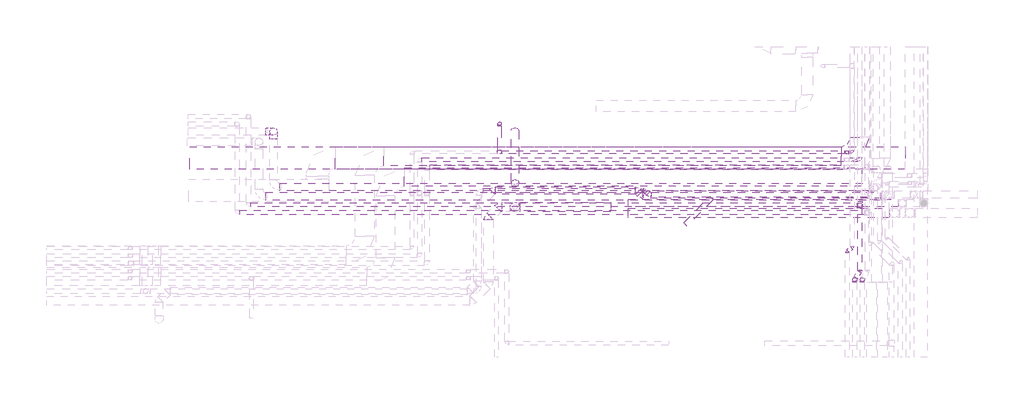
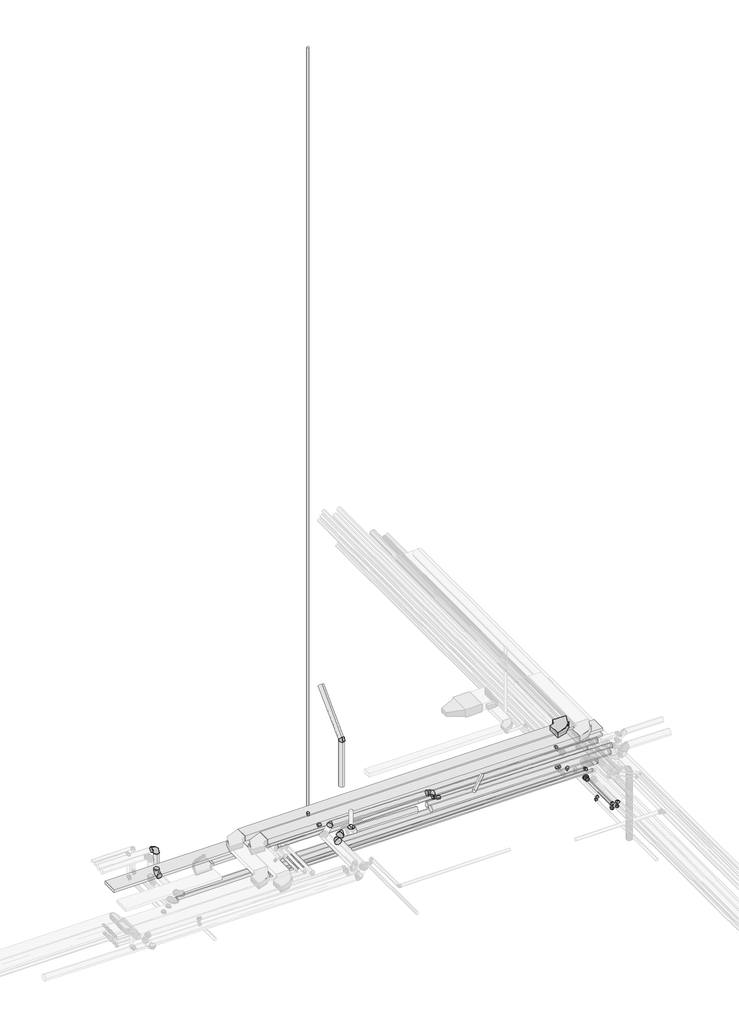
# One storey, part 6 of 12: 29 pipe segments, 24 pipe fittings, 5 duct segments, 3 duct fittings, 2 cable carrier segments.
"""IFC4 building model written with IfcOpenShell, lengths in millimetres."""

from ifc_helpers import new_model, si_unit, point, frame, frame_2d, origin, place, context, project, spatial, polyline, circle_curve, trimmed, segment, composite_curve, outline, extrude, transform, mapped, element, save
from components import m_codo_rectangular_radio_apt_1_w_8ec2a39b, m_codo_redondo_ext_1_d_d88d4426, m_codo_redondo_ext_1_d_1d3d167f, pipe_fitting_ae9a0cda, pipe_fitting_c8b089c1, pipe_fitting_fa3f9604, pipe_fitting_87aeffad, pipe_fitting_4a6b8cfe, pipe_fitting_2d09eb79, pipe_fitting_80f5df9b, pipe_fitting_a384b232, pipe_fitting_20247dfb, pipe_fitting_58729e57, pipe_fitting_8179267e, pipe_fitting_2f38fb91, t_soldadura_a_enchufe_4b0a6972

model = new_model("IFC4")

# Units and contexts
model_context = context("Model", 3, world=origin())
ifc_project = project(units=[si_unit("LENGTHUNIT", "METRE", prefix="MILLI")], contexts=[model_context])

# Site, building, storey
site = spatial("IfcSite", under=ifc_project)
building = spatial("IfcBuilding", under=site)
storey = spatial("IfcBuildingStorey", under=building, Name="Nivell -01 PS1_PK", Elevation=1850.0)

# Cable carrier segments
placement = place(None, origin())
element("IfcCableCarrierSegment", 1, ObjectType="EL", at=placement, inside=storey, context=model_context, shape_type="SweptSolid", body=[
    extrude(outline(polyline([(33067.3540629, -11878.0770603), (33067.3540629, -12478.0770603), (17944.9823979, -12478.0770603), (17944.9823979, -11878.0770603), (33067.3540629, -11878.0770603)])), frame((0.0, 0.0, 5150.0), z_axis=(0.0, 0.0, 1.0), x_axis=(1.0, 0.0, 0.0)), (0.0, 0.0, 1.0), 100.0),
])
element("IfcCableCarrierSegment", 2, ObjectType="EL", at=placement, inside=storey, context=model_context, shape_type="SweptSolid", body=[
    extrude(outline(polyline([(33067.3540629, -11878.0770603), (33067.3540629, -12478.0770603), (14074.9823979, -12478.0770603), (14074.9823979, -11878.0770603), (33067.3540629, -11878.0770603)])), frame((0.0, 0.0, 5400.0), z_axis=(0.0, 0.0, 1.0), x_axis=(1.0, 0.0, 0.0)), (0.0, 0.0, 1.0), 100.0),
])

# Duct fittings
m_codo_rectangular_radio_apt_1_w_shape = m_codo_rectangular_radio_apt_1_w_8ec2a39b(model_context)
element("IfcDuctFitting", 3, ObjectType="M_Codo rectangular - Radio : EXT_1 W", at=placement, inside=storey, context=model_context, shape_type="MappedRepresentation", body=[
    mapped(m_codo_rectangular_radio_apt_1_w_shape, transform((31865.0957651, -12128.0770603, 5750.0), x_axis=(1.0, 0.0, 0.0), y_axis=(0.0, 1.0, 0.0), z_axis=(0.0, 0.0, 1.0))),
])
m_codo_redondo_ext_1_d_shape = m_codo_redondo_ext_1_d_d88d4426(model_context)
element("IfcDuctFitting", 4, ObjectType="M_Codo redondo : EXT_1 D", at=placement, inside=storey, context=model_context, shape_type="MappedRepresentation", body=[
    mapped(m_codo_redondo_ext_1_d_shape, transform((26281.8801613, -13150.9140623, 5450.0), x_axis=(0.7071067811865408, -0.7071067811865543, 0.0), y_axis=(0.7071067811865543, 0.7071067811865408, 0.0), z_axis=(0.0, 0.0, 1.0))),
])
m_codo_redondo_ext_1_d_2_shape = m_codo_redondo_ext_1_d_1d3d167f(model_context)
element("IfcDuctFitting", 5, ObjectType="M_Codo redondo : EXT_1 D", at=placement, inside=storey, context=model_context, shape_type="MappedRepresentation", body=[
    mapped(m_codo_redondo_ext_1_d_2_shape, transform((26168.239286, -13037.2731871, 5450.0), x_axis=(-0.7071067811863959, 0.7071067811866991, 0.0), y_axis=(-0.7071067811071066, -0.7071067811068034, 1.5004064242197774e-05), z_axis=(1.0609475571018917e-05, 1.0609475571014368e-05, 0.9999999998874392))),
])

# Duct segments
element("IfcDuctSegment", 6, ObjectType="APT_Fibra de vidre rígida", at=placement, inside=storey, context=model_context, shape_type="SweptSolid", body=[
    extrude(outline(polyline([(19775.7133499, -12928.0770603), (19775.7133499, -12428.0770603), (31915.0957651, -12428.0770603), (31915.0957651, -12928.0770603), (19775.7133499, -12928.0770603)])), frame((0.0, 0.0, 5650.0), z_axis=(0.0, 0.0, 1.0), x_axis=(1.0, 0.0, 0.0)), (0.0, 0.0, 1.0), 200.0),
])
element("IfcDuctSegment", 7, ObjectType="EXT_Fibra de vidre rígida", at=placement, inside=storey, context=model_context, shape_type="SweptSolid", body=[
    extrude(outline(polyline([(19225.7133499, -12378.0770603), (19225.7133499, -11878.0770603), (31365.0957651, -11878.0770603), (31365.0957651, -12378.0770603), (19225.7133499, -12378.0770603)])), frame((0.0, 0.0, 5650.0), z_axis=(0.0, 0.0, 1.0), x_axis=(1.0, 0.0, 0.0)), (0.0, 0.0, 1.0), 200.0),
])
element("IfcDuctSegment", 8, ObjectType="EXT_Acer Galvanitzat - Rígid", at=placement, inside=storey, context=model_context, shape_type="SweptSolid", body=[
    extrude(outline(composite_curve([segment(trimmed(circle_curve(frame_2d((0.0, 62.5)), 62.5), [point((0.0, 125.0))], [point((62.5, 62.5))], False, "CARTESIAN"), True, "CONTINUOUS"), segment(trimmed(circle_curve(frame_2d((0.0, 62.5)), 62.5), [point((62.5, 62.5))], [point((0.0, 0.0))], False, "CARTESIAN"), True, "CONTINUOUS"), segment(trimmed(circle_curve(frame_2d((0.0, 62.5)), 62.5), [point((0.0, 0.0))], [point((-62.5000001, 62.5))], False, "CARTESIAN"), True, "CONTINUOUS"), segment(trimmed(circle_curve(frame_2d((0.0, 62.5)), 62.5), [point((-62.5000001, 62.5))], [point((0.0, 125.0))], False, "CARTESIAN"), True, "CONTINUOUS")], self_intersect=False)), frame((26333.6903846, -13150.8903375, 5387.5), z_axis=(0.9999998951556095, 0.00045791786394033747, 0.0), x_axis=(-0.00045791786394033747, 0.9999998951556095, 0.0)), (0.0, 0.0, 1.0), 5735.6344712),
])
element("IfcDuctSegment", 9, ObjectType="EXT_Acer Galvanitzat - Rígid", at=placement, inside=storey, context=model_context, shape_type="SweptSolid", body=[
    extrude(outline(composite_curve([segment(trimmed(circle_curve(frame_2d((0.0, 62.5)), 62.5), [point((62.5, 62.5))], [point((0.0, 0.0))], False, "CARTESIAN"), True, "CONTINUOUS"), segment(trimmed(circle_curve(frame_2d((0.0, 62.5)), 62.5), [point((0.0, 0.0))], [point((-62.5, 62.5))], False, "CARTESIAN"), True, "CONTINUOUS"), segment(trimmed(circle_curve(frame_2d((0.0, 62.5)), 62.5), [point((-62.5, 62.5))], [point((0.0, 125.0))], False, "CARTESIAN"), True, "CONTINUOUS"), segment(trimmed(circle_curve(frame_2d((0.0, 62.5)), 62.5), [point((0.0, 125.0))], [point((62.5, 62.5))], False, "CARTESIAN"), True, "CONTINUOUS")], self_intersect=False)), frame((26245.2447972, -13114.2786983, 5512.5), z_axis=(-0.7071067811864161, 0.707106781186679, 0.0), x_axis=(0.707106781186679, 0.7071067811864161, 0.0)), (0.0, 0.0, 1.0), 57.125543),
])
element("IfcDuctSegment", 10, ObjectType="EXT_Acer Galvanitzat - Rígid", at=placement, inside=storey, context=model_context, shape_type="SweptSolid", body=[
    extrude(outline(composite_curve([segment(trimmed(circle_curve(frame_2d((0.0, -62.5)), 62.5), [point((-62.5, -62.5))], [point((0.0, 0.0))], False, "CARTESIAN"), True, "CONTINUOUS"), segment(trimmed(circle_curve(frame_2d((0.0, -62.5)), 62.5), [point((0.0, 0.0))], [point((62.5, -62.5))], False, "CARTESIAN"), True, "CONTINUOUS"), segment(trimmed(circle_curve(frame_2d((0.0, -62.5)), 62.5), [point((62.5, -62.5))], [point((0.0, -125.0))], False, "CARTESIAN"), True, "CONTINUOUS"), segment(trimmed(circle_curve(frame_2d((0.0, -62.5)), 62.5), [point((0.0, -125.0))], [point((-62.5, -62.5))], False, "CARTESIAN"), True, "CONTINUOUS")], self_intersect=False)), frame((26116.4621321, -13037.2731871, 5387.5005493), z_axis=(-0.9999999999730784, 0.0, 7.3377911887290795e-06), x_axis=(0.0, 1.0, 0.0)), (0.0, 0.0, 1.0), 4244.7366196),
])

# Pipe fittings
pipe_fitting_shape = pipe_fitting_ae9a0cda(model_context)
element("IfcPipeFitting", 11, ObjectType="M_Codo - Genérico : Estándar", at=placement, inside=storey, context=model_context, shape_type="MappedRepresentation", body=[
    mapped(pipe_fitting_shape, transform((26062.9608262, -13149.471857, 5690.0654389), x_axis=(0.7070714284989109, -0.7070714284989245, -0.009999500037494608), y_axis=(0.7070714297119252, 0.7071300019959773, -0.004141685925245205), z_axis=(0.009999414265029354, -0.0041418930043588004, 0.9999414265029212))),
])
element("IfcPipeFitting", 12, ObjectType="M_Codo - Genérico : Estándar", at=placement, inside=storey, context=model_context, shape_type="MappedRepresentation", body=[
    mapped(pipe_fitting_shape, transform((25951.2284934, -13037.7395242, 5691.6455727), x_axis=(-0.7070714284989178, 0.7070714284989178, 0.009999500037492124), y_axis=(-0.7070714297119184, -0.7071300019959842, 0.0041416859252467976), z_axis=(0.009999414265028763, -0.004141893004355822, 0.9999414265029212))),
])
pipe_fitting_2_shape = pipe_fitting_c8b089c1(model_context)
element("IfcPipeFitting", 13, ObjectType="M_Codo - Genérico : Estándar", at=placement, inside=storey, context=model_context, shape_type="MappedRepresentation", body=[
    mapped(pipe_fitting_2_shape, transform((22710.0712358, -12844.4285916, 8897.4697035), x_axis=(0.0, -0.7071067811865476, -0.7071067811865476), y_axis=(0.0, 0.7071067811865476, -0.7071067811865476), z_axis=(1.0, 0.0, 0.0))),
])
pipe_fitting_3_shape = pipe_fitting_fa3f9604(model_context)
element("IfcPipeFitting", 14, ObjectType="M_Codo - Genérico : Estándar", at=placement, inside=storey, context=model_context, shape_type="MappedRepresentation", body=[
    mapped(pipe_fitting_3_shape, transform((31860.0107148, -12222.4519116, 4125.002572), x_axis=(1.0, 0.0, 0.0), y_axis=(0.0, 0.999999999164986, -4.086597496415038e-05), z_axis=(0.0, 4.086597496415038e-05, 0.999999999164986))),
])
element("IfcPipeFitting", 15, ObjectType="M_Codo - Genérico : Estándar", at=placement, inside=storey, context=model_context, shape_type="MappedRepresentation", body=[
    mapped(pipe_fitting_3_shape, transform((31862.999736, -13420.2277182, 4855.0), x_axis=(1.0, 0.0, 0.0), y_axis=(0.0, 0.0, -1.0), z_axis=(0.0, 1.0, 0.0))),
])
element("IfcPipeFitting", 16, ObjectType="M_Codo - Genérico : Estándar", at=placement, inside=storey, context=model_context, shape_type="MappedRepresentation", body=[
    mapped(pipe_fitting_3_shape, transform((31729.2033031, -15404.9786244, 4445.0), x_axis=(-0.5000000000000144, -0.8660254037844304, 0.0), y_axis=(0.0, 0.0, 1.0), z_axis=(-0.8660254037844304, 0.5000000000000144, 0.0))),
])
element("IfcPipeFitting", 17, ObjectType="M_Codo - Genérico : Estándar", at=placement, inside=storey, context=model_context, shape_type="MappedRepresentation", body=[
    mapped(pipe_fitting_3_shape, transform((31929.2116083, -15404.9786231, 4445.0), x_axis=(-0.5000000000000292, -0.8660254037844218, 0.0), y_axis=(0.0, 0.0, 1.0), z_axis=(-0.8660254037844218, 0.5000000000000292, 0.0))),
])
element("IfcPipeFitting", 18, ObjectType="M_Codo - Genérico : Estándar", at=placement, inside=storey, context=model_context, shape_type="MappedRepresentation", body=[
    mapped(pipe_fitting_3_shape, transform((31729.2033031, -15404.9786244, 4695.0), x_axis=(0.0, 0.0, 1.0), y_axis=(0.0, -1.0, 0.0), z_axis=(1.0, 0.0, 0.0))),
])
element("IfcPipeFitting", 19, ObjectType="M_Codo - Genérico : Estándar", at=placement, inside=storey, context=model_context, shape_type="MappedRepresentation", body=[
    mapped(pipe_fitting_3_shape, transform((31929.2116083, -15404.9786231, 4695.0), x_axis=(0.0, 0.0, 1.0), y_axis=(0.0, -1.0, 0.0), z_axis=(1.0, 0.0, 0.0))),
])
pipe_fitting_4_shape = pipe_fitting_87aeffad(model_context)
element("IfcPipeFitting", 20, ObjectType="M_Codo - Genérico : Estándar", at=placement, inside=storey, context=model_context, shape_type="MappedRepresentation", body=[
    mapped(pipe_fitting_4_shape, transform((22302.359144, -11262.4519116, 5030.0), x_axis=(0.0, 0.0, -1.0), y_axis=(0.0, -1.0, 0.0), z_axis=(-1.0, 0.0, 0.0))),
])
element("IfcPipeFitting", 21, ObjectType="M_Codo - Genérico : Estándar", at=placement, inside=storey, context=model_context, shape_type="MappedRepresentation", body=[
    mapped(pipe_fitting_4_shape, transform((31660.0107148, -12022.4519116, 4135.0), x_axis=(1.0, 0.0, 0.0), y_axis=(0.0, 0.9999999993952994, -3.477644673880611e-05), z_axis=(0.0, 3.477644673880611e-05, 0.9999999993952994))),
])
element("IfcPipeFitting", 22, ObjectType="M_Codo - Genérico : Estándar", at=placement, inside=storey, context=model_context, shape_type="MappedRepresentation", body=[
    mapped(pipe_fitting_4_shape, transform((31520.0107148, -12022.4519116, 4135.0), x_axis=(-1.0, 0.0, 0.0), y_axis=(0.0, 0.0, 1.0), z_axis=(0.0, 1.0, 0.0))),
])
element("IfcPipeFitting", 23, ObjectType="M_Codo - Genérico : Estándar", at=placement, inside=storey, context=model_context, shape_type="MappedRepresentation", body=[
    mapped(pipe_fitting_4_shape, transform((31520.0107148, -12022.4519116, 5030.0), x_axis=(0.0, 0.0, 1.0), y_axis=(-1.0, 0.0, 0.0), z_axis=(0.0, -1.0, 0.0))),
])
pipe_fitting_5_shape = pipe_fitting_4a6b8cfe(model_context)
element("IfcPipeFitting", 24, ObjectType="M_Codo - Genérico : Estándar", at=placement, inside=storey, context=model_context, shape_type="MappedRepresentation", body=[
    mapped(pipe_fitting_5_shape, transform((31659.0046011, -14538.9583766, 4449.2), x_axis=(0.7071067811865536, 0.7071067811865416, 0.0), y_axis=(-0.7071067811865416, 0.7071067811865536, 0.0), z_axis=(0.0, 0.0, 1.0))),
])
element("IfcPipeFitting", 25, ObjectType="M_Codo - Genérico : Estándar", at=placement, inside=storey, context=model_context, shape_type="MappedRepresentation", body=[
    mapped(pipe_fitting_5_shape, transform((31531.7253804, -14666.2375972, 4449.2), x_axis=(-0.7071067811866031, -0.7071067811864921, 0.0), y_axis=(0.7071067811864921, -0.7071067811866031, 0.0), z_axis=(0.0, 0.0, 1.0))),
])
pipe_fitting_6_shape = pipe_fitting_2d09eb79(model_context)
element("IfcPipeFitting", 26, ObjectType="M_Te - Genérica : Estándar", at=placement, inside=storey, context=model_context, shape_type="MappedRepresentation", body=[
    mapped(pipe_fitting_6_shape, transform((22302.359144, -12022.4519116, 5030.0), x_axis=(-1.0, 0.0, 0.0), y_axis=(0.0, -1.0, 0.0), z_axis=(0.0, 0.0, 1.0))),
])
pipe_fitting_7_shape = pipe_fitting_80f5df9b(model_context)
element("IfcPipeFitting", 27, ObjectType="M_Codo - Genérico : Estándar", at=placement, inside=storey, context=model_context, shape_type="MappedRepresentation", body=[
    mapped(pipe_fitting_7_shape, transform((22137.6383008, -13037.7395242, 5729.7814746), x_axis=(-0.9999500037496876, 0.0, 0.00999950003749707), y_axis=(4.141651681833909e-05, -0.9999914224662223, 0.004141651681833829), z_axis=(0.009999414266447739, 0.004141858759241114, 0.9999414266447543))),
])
pipe_fitting_8_shape = pipe_fitting_a384b232(model_context)
element("IfcPipeFitting", 28, ObjectType="M_Codo - Genérico : Estándar", at=placement, inside=storey, context=model_context, shape_type="MappedRepresentation", body=[
    mapped(pipe_fitting_8_shape, transform((31862.999736, -15173.2364046, 4445.0), x_axis=(0.500000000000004, 0.8660254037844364, 0.0), y_axis=(-0.8660254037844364, 0.500000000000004, 0.0), z_axis=(0.0, 0.0, 1.0))),
])
pipe_fitting_9_shape = pipe_fitting_20247dfb(model_context)
element("IfcPipeFitting", 29, ObjectType="M_Transición - Genérica : Estándar", at=placement, inside=storey, context=model_context, shape_type="MappedRepresentation", body=[
    mapped(pipe_fitting_9_shape, transform((22710.5244396, -13474.959858, 5675.2280442), x_axis=(0.0, 0.0, 1.0), y_axis=(0.0, -1.0, 0.0), z_axis=(1.0, 0.0, 0.0))),
])
pipe_fitting_10_shape = pipe_fitting_58729e57(model_context)
element("IfcPipeFitting", 30, ObjectType="M_Codo - Genérico : Estándar", at=placement, inside=storey, context=model_context, shape_type="MappedRepresentation", body=[
    mapped(pipe_fitting_10_shape, transform((22296.9398215, -13474.959858, 5538.0763904), x_axis=(-0.9999500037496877, 0.0, 0.009999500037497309), y_axis=(4.141685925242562e-05, -0.9999914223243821, 0.004141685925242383), z_axis=(0.009999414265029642, 0.0041418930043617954, 0.9999414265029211))),
])
pipe_fitting_11_shape = pipe_fitting_8179267e(model_context)
element("IfcPipeFitting", 31, ObjectType="M_Codo - Genérico : Estándar", at=placement, inside=storey, context=model_context, shape_type="MappedRepresentation", body=[
    mapped(pipe_fitting_11_shape, transform((22008.8828624, -13763.0185848, 5542.1501435), x_axis=(-0.7070714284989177, -0.7070714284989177, 0.009999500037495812), y_axis=(0.707129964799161, -0.7070715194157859, 0.004132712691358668), z_axis=(0.004148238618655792, 0.009993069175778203, 0.9999414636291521))),
])
pipe_fitting_12_shape = pipe_fitting_2f38fb91(model_context)
element("IfcPipeFitting", 32, ObjectType="Codo 90º Soldadura a Tope SDR 11 BluePipe : Estándar", at=placement, inside=storey, context=model_context, shape_type="MappedRepresentation", body=[
    mapped(pipe_fitting_12_shape, transform((16297.1445514, -11473.2882686, 4820.0), x_axis=(4.302880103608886e-05, 0.9999999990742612, 0.0), y_axis=(0.0, 0.0, 1.0), z_axis=(0.9999999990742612, -4.302880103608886e-05, 0.0))),
])
element("IfcPipeFitting", 33, ObjectType="Codo 90º Soldadura a Tope SDR 11 BluePipe : Estándar", at=placement, inside=storey, context=model_context, shape_type="MappedRepresentation", body=[
    mapped(pipe_fitting_12_shape, transform((16297.1881928, -11473.2882705, 5850.0), x_axis=(0.0, 0.0, 1.0), y_axis=(-0.999999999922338, 1.246290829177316e-05, 0.0), z_axis=(-1.246290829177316e-05, -0.999999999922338, 0.0))),
])
t_soldadura_a_enchufe_shape = t_soldadura_a_enchufe_4b0a6972(model_context)
element("IfcPipeFitting", 34, ObjectType="T-Soldadura a enchufe : Estándar", at=placement, inside=storey, context=model_context, shape_type="MappedRepresentation", body=[
    mapped(t_soldadura_a_enchufe_shape, transform((31862.999736, -13420.2277182, 4445.0), x_axis=(0.0, -1.0, 0.0), y_axis=(0.0, 0.0, -1.0), z_axis=(1.0, 0.0, 0.0))),
])

# Pipe segments
element("IfcPipeSegment", 35, ObjectType="PVC_Baixant", at=placement, inside=storey, context=model_context, shape_type="SweptSolid", body=[
    extrude(outline(composite_curve([segment(trimmed(circle_curve(frame_2d((0.0, 125.0)), 125.0), [point((0.0, 250.0))], [point((125.0, 125.0))], False, "CARTESIAN"), True, "CONTINUOUS"), segment(trimmed(circle_curve(frame_2d((0.0, 125.0)), 125.0), [point((125.0, 125.0))], [point((0.0, 0.0))], False, "CARTESIAN"), True, "CONTINUOUS"), segment(trimmed(circle_curve(frame_2d((0.0, 125.0)), 125.0), [point((0.0, 0.0))], [point((-124.9999999, 125.0))], False, "CARTESIAN"), True, "CONTINUOUS"), segment(trimmed(circle_curve(frame_2d((0.0, 125.0)), 125.0), [point((-124.9999999, 125.0))], [point((0.0, 250.0))], False, "CARTESIAN"), True, "CONTINUOUS")], self_intersect=False)), frame((32650.090453, -13759.0814259, 5412.3507807), z_axis=(-0.9999500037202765, 0.0, 0.009999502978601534), x_axis=(0.009999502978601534, 0.0, 0.9999500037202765)), (0.0, 0.0, 1.0), 6937.8129472),
])
element("IfcPipeSegment", 36, ObjectType="PVC_Baixant", at=placement, inside=storey, context=model_context, shape_type="SweptSolid", body=[
    extrude(outline(composite_curve([segment(trimmed(circle_curve(frame_2d((0.0, 100.0)), 100.0), [point((100.0, 100.0))], [point((0.0, 0.0))], False, "CARTESIAN"), True, "CONTINUOUS"), segment(trimmed(circle_curve(frame_2d((0.0, 100.0)), 100.0), [point((0.0, 0.0))], [point((-100.0, 100.0))], False, "CARTESIAN"), True, "CONTINUOUS"), segment(trimmed(circle_curve(frame_2d((0.0, 100.0)), 100.0), [point((-100.0, 100.0))], [point((0.0, 199.9999999))], False, "CARTESIAN"), True, "CONTINUOUS"), segment(trimmed(circle_curve(frame_2d((0.0, 100.0)), 100.0), [point((0.0, 199.9999999))], [point((100.0, 100.0))], False, "CARTESIAN"), True, "CONTINUOUS")], self_intersect=False)), frame((22710.0712358, -12883.0564788, 9000.2631726), z_axis=(0.0, 0.7071067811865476, 0.7071067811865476), x_axis=(1.0, 0.0, 0.0)), (0.0, 0.0, 1.0), 1934.6280819),
])
element("IfcPipeSegment", 37, ObjectType="PVC_Baixant", at=placement, inside=storey, context=model_context, shape_type="SweptSolid", body=[
    extrude(outline(composite_curve([segment(trimmed(circle_curve(frame_2d((0.0, -100.0)), 100.0), [point((0.0, -200.0))], [point((-100.0, -100.0))], False, "CARTESIAN"), True, "CONTINUOUS"), segment(trimmed(circle_curve(frame_2d((0.0, -100.0)), 100.0), [point((-100.0, -100.0))], [point((0.0, 0.0))], False, "CARTESIAN"), True, "CONTINUOUS"), segment(trimmed(circle_curve(frame_2d((0.0, -100.0)), 100.0), [point((0.0, 0.0))], [point((100.0, -100.0))], False, "CARTESIAN"), True, "CONTINUOUS"), segment(trimmed(circle_curve(frame_2d((0.0, -100.0)), 100.0), [point((100.0, -100.0))], [point((0.0, -200.0))], False, "CARTESIAN"), True, "CONTINUOUS")], self_intersect=False)), frame((32883.8086969, -13274.3117271, 5412.3030129), z_axis=(-0.9999529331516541, 0.0, 0.009702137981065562), x_axis=(0.009702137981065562, 0.0, 0.9999529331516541)), (0.0, 0.0, 1.0), 7171.5201421),
])
element("IfcPipeSegment", 38, ObjectType="PPR_CLI_Aquatherm Blue Pipe", at=placement, inside=storey, context=model_context, shape_type="SweptSolid", body=[
    extrude(outline(composite_curve([segment(trimmed(circle_curve(frame_2d((0.0, -100.0)), 100.0), [point((-100.0, -100.0))], [point((0.0, 0.0))], False, "CARTESIAN"), True, "CONTINUOUS"), segment(trimmed(circle_curve(frame_2d((0.0, -100.0)), 100.0), [point((0.0, 0.0))], [point((99.9999999, -100.0))], False, "CARTESIAN"), True, "CONTINUOUS"), segment(trimmed(circle_curve(frame_2d((0.0, -100.0)), 100.0), [point((99.9999999, -100.0))], [point((0.0, -200.0))], False, "CARTESIAN"), True, "CONTINUOUS"), segment(trimmed(circle_curve(frame_2d((0.0, -100.0)), 100.0), [point((0.0, -200.0))], [point((-100.0, -100.0))], False, "CARTESIAN"), True, "CONTINUOUS")], self_intersect=False)), frame((32420.8445428, -13190.1006343, 4720.0000672), z_axis=(-0.9999999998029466, 1.9852121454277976e-05, 0.0), x_axis=(1.9852121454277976e-05, 0.9999999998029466, 0.0)), (0.0, 0.0, 1.0), 16328.773357),
])
element("IfcPipeSegment", 39, ObjectType="PPR_CLI_Aquatherm Blue Pipe", at=placement, inside=storey, context=model_context, shape_type="SweptSolid", body=[
    extrude(outline(composite_curve([segment(trimmed(circle_curve(frame_2d((0.0, -100.0)), 100.0), [point((-100.0, -100.0))], [point((0.0, 0.0))], False, "CARTESIAN"), True, "CONTINUOUS"), segment(trimmed(circle_curve(frame_2d((0.0, -100.0)), 100.0), [point((0.0, 0.0))], [point((100.0, -100.0))], False, "CARTESIAN"), True, "CONTINUOUS"), segment(trimmed(circle_curve(frame_2d((0.0, -100.0)), 100.0), [point((100.0, -100.0))], [point((0.0, -200.0))], False, "CARTESIAN"), True, "CONTINUOUS"), segment(trimmed(circle_curve(frame_2d((0.0, -100.0)), 100.0), [point((0.0, -200.0))], [point((-100.0, -100.0))], False, "CARTESIAN"), True, "CONTINUOUS")], self_intersect=False)), frame((32130.914062, -12940.1623926, 4720.0), z_axis=(-0.9999999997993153, 2.0034207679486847e-05, 0.0), x_axis=(2.0034207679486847e-05, 0.9999999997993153, 0.0)), (0.0, 0.0, 1.0), 15658.8349112),
])
element("IfcPipeSegment", 40, ObjectType="PPR_CLI_Aquatherm Blue Pipe", at=placement, inside=storey, context=model_context, shape_type="SweptSolid", body=[
    extrude(outline(composite_curve([segment(trimmed(circle_curve(frame_2d((0.0, -55.0)), 55.0), [point((-55.0, -55.0))], [point((0.0, 0.0))], False, "CARTESIAN"), True, "CONTINUOUS"), segment(trimmed(circle_curve(frame_2d((0.0, -55.0)), 55.0), [point((0.0, 0.0))], [point((55.0, -55.0))], False, "CARTESIAN"), True, "CONTINUOUS"), segment(trimmed(circle_curve(frame_2d((0.0, -55.0)), 55.0), [point((55.0, -55.0))], [point((0.0, -110.0))], False, "CARTESIAN"), True, "CONTINUOUS"), segment(trimmed(circle_curve(frame_2d((0.0, -55.0)), 55.0), [point((0.0, -110.0))], [point((-55.0, -55.0))], False, "CARTESIAN"), True, "CONTINUOUS")], self_intersect=False)), frame((32000.0705426, -13620.2364034, 4800.0), z_axis=(-0.9999999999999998, 2.0795553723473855e-08, 0.0), x_axis=(2.0795553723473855e-08, 0.9999999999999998, 0.0)), (0.0, 0.0, 1.0), 16600.0756623),
])
element("IfcPipeSegment", 41, ObjectType="PPR_CLI_Aquatherm Blue Pipe", at=placement, inside=storey, context=model_context, shape_type="SweptSolid", body=[
    extrude(outline(composite_curve([segment(trimmed(circle_curve(frame_2d((-13420.2277182, 4855.0)), 55.0), [point((-13475.2277182, 4855.0))], [point((-13420.2277182, 4910.0))], False, "CARTESIAN"), True, "CONTINUOUS"), segment(trimmed(circle_curve(frame_2d((-13420.2277182, 4855.0)), 55.0), [point((-13420.2277182, 4910.0))], [point((-13365.2277182, 4855.0))], False, "CARTESIAN"), True, "CONTINUOUS"), segment(trimmed(circle_curve(frame_2d((-13420.2277182, 4855.0)), 55.0), [point((-13365.2277182, 4855.0))], [point((-13420.2277182, 4800.0))], False, "CARTESIAN"), True, "CONTINUOUS"), segment(trimmed(circle_curve(frame_2d((-13420.2277182, 4855.0)), 55.0), [point((-13420.2277182, 4800.0))], [point((-13475.2277182, 4855.0))], False, "CARTESIAN"), True, "CONTINUOUS")], self_intersect=False)), frame((15700.0033827, 0.0, 0.0), z_axis=(1.0, 0.0, 0.0), x_axis=(0.0, 1.0, 0.0)), (0.0, 0.0, 1.0), 16100.0588533),
])
element("IfcPipeSegment", 42, ObjectType="PPR_CLI_Aquatherm Blue Pipe", at=placement, inside=storey, context=model_context, shape_type="SweptSolid", body=[
    extrude(outline(composite_curve([segment(trimmed(circle_curve(frame_2d((16297.1445514, -11473.2882686)), 100.0), [point((16197.1445514, -11473.2882686))], [point((16297.1445514, -11373.2882686))], False, "CARTESIAN"), True, "CONTINUOUS"), segment(trimmed(circle_curve(frame_2d((16297.1445514, -11473.2882686)), 100.0), [point((16297.1445514, -11373.2882686))], [point((16397.1445514, -11473.2882686))], False, "CARTESIAN"), True, "CONTINUOUS"), segment(trimmed(circle_curve(frame_2d((16297.1445514, -11473.2882686)), 100.0), [point((16397.1445514, -11473.2882686))], [point((16297.1445514, -11573.2882686))], False, "CARTESIAN"), True, "CONTINUOUS"), segment(trimmed(circle_curve(frame_2d((16297.1445514, -11473.2882686)), 100.0), [point((16297.1445514, -11573.2882686))], [point((16197.1445514, -11473.2882686))], False, "CARTESIAN"), True, "CONTINUOUS")], self_intersect=False)), frame((0.0, 0.0, 4995.0), z_axis=(0.0, 0.0, 1.0), x_axis=(1.0, 0.0, 0.0)), (0.0, 0.0, 1.0), 680.0),
])
element("IfcPipeSegment", 43, ObjectType="PP_FN", at=placement, inside=storey, context=model_context, shape_type="SweptSolid", body=[
    extrude(outline(composite_curve([segment(trimmed(circle_curve(frame_2d((5030.0, 22302.359144)), 45.0), [point((5030.0, 22257.359144))], [point((4985.0, 22302.359144))], False, "CARTESIAN"), True, "CONTINUOUS"), segment(trimmed(circle_curve(frame_2d((5030.0, 22302.359144)), 45.0), [point((4985.0, 22302.359144))], [point((5030.0, 22347.359144))], False, "CARTESIAN"), True, "CONTINUOUS"), segment(trimmed(circle_curve(frame_2d((5030.0, 22302.359144)), 45.0), [point((5030.0, 22347.359144))], [point((5075.0, 22302.359144))], False, "CARTESIAN"), True, "CONTINUOUS"), segment(trimmed(circle_curve(frame_2d((5030.0, 22302.359144)), 45.0), [point((5075.0, 22302.359144))], [point((5030.0, 22257.359144))], False, "CARTESIAN"), True, "CONTINUOUS")], self_intersect=False)), frame((0.0, -11963.7144116, 0.0), z_axis=(0.0, 1.0, 0.0), x_axis=(0.0, 0.0, 1.0)), (0.0, 0.0, 1.0), 648.875),
])
element("IfcPipeSegment", 44, ObjectType="PP_FN", at=placement, inside=storey, context=model_context, shape_type="SweptSolid", body=[
    extrude(outline(composite_curve([segment(trimmed(circle_curve(frame_2d((22302.359144, -11262.4519116)), 45.0), [point((22347.359144, -11262.4519116))], [point((22302.359144, -11307.4519116))], False, "CARTESIAN"), True, "CONTINUOUS"), segment(trimmed(circle_curve(frame_2d((22302.359144, -11262.4519116)), 45.0), [point((22302.359144, -11307.4519116))], [point((22257.359144, -11262.4519116))], False, "CARTESIAN"), True, "CONTINUOUS"), segment(trimmed(circle_curve(frame_2d((22302.359144, -11262.4519116)), 45.0), [point((22257.359144, -11262.4519116))], [point((22302.359144, -11217.4519116))], False, "CARTESIAN"), True, "CONTINUOUS"), segment(trimmed(circle_curve(frame_2d((22302.359144, -11262.4519116)), 45.0), [point((22302.359144, -11217.4519116))], [point((22347.359144, -11262.4519116))], False, "CARTESIAN"), True, "CONTINUOUS")], self_intersect=False)), frame((0.0, 0.0, 5082.3875), z_axis=(0.0, 0.0, 1.0), x_axis=(1.0, 0.0, 0.0)), (0.0, 0.0, 1.0), 31417.6125),
])
element("IfcPipeSegment", 45, ObjectType="PVC_Baixant", at=placement, inside=storey, context=model_context, shape_type="SweptSolid", body=[
    extrude(outline(composite_curve([segment(trimmed(circle_curve(frame_2d((0.0, -100.0)), 100.0), [point((1.1830488, -199.9930017))], [point((-99.9930018, -101.1830488))], False, "CARTESIAN"), True, "CONTINUOUS"), segment(trimmed(circle_curve(frame_2d((0.0, -100.0)), 100.0), [point((-99.9930018, -101.1830488))], [point((-1.1830488, -0.0069982))], False, "CARTESIAN"), True, "CONTINUOUS"), segment(trimmed(circle_curve(frame_2d((0.0, -100.0)), 100.0), [point((-1.1830488, -0.0069982))], [point((99.9930018, -98.8169511))], False, "CARTESIAN"), True, "CONTINUOUS"), segment(trimmed(circle_curve(frame_2d((0.0, -100.0)), 100.0), [point((99.9930018, -98.8169511))], [point((1.1830488, -199.9930017))], False, "CARTESIAN"), True, "CONTINUOUS")], self_intersect=False)), frame((32442.9495559, -13048.7234747, 5627.4484829), z_axis=(-0.9999499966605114, -0.00011830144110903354, 0.00999950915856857), x_axis=(0.010000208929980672, -0.011829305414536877, 0.9998800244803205)), (0.0, 0.0, 1.0), 6334.9385077),
])
element("IfcPipeSegment", 46, ObjectType="PVC_Baixant", at=placement, inside=storey, context=model_context, shape_type="SweptSolid", body=[
    extrude(outline(composite_curve([segment(trimmed(circle_curve(frame_2d((22710.0712358, -12844.4285916)), 100.0), [point((22810.0712358, -12844.4285916))], [point((22710.0712358, -12944.4285916))], False, "CARTESIAN"), True, "CONTINUOUS"), segment(trimmed(circle_curve(frame_2d((22710.0712358, -12844.4285916)), 100.0), [point((22710.0712358, -12944.4285916))], [point((22610.0712358, -12844.4285916))], False, "CARTESIAN"), True, "CONTINUOUS"), segment(trimmed(circle_curve(frame_2d((22710.0712358, -12844.4285916)), 100.0), [point((22610.0712358, -12844.4285916))], [point((22710.0712358, -12744.4285916))], False, "CARTESIAN"), True, "CONTINUOUS"), segment(trimmed(circle_curve(frame_2d((22710.0712358, -12844.4285916)), 100.0), [point((22710.0712358, -12744.4285916))], [point((22810.0712358, -12844.4285916))], False, "CARTESIAN"), True, "CONTINUOUS")], self_intersect=False)), frame((0.0, 0.0, 6997.4697035), z_axis=(0.0, 0.0, 1.0), x_axis=(1.0, 0.0, 0.0)), (0.0, 0.0, 1.0), 1854.6280819),
])
element("IfcPipeSegment", 47, ObjectType="PVC_Baixant", at=placement, inside=storey, context=model_context, shape_type="SweptSolid", body=[
    extrude(outline(composite_curve([segment(trimmed(circle_curve(frame_2d((0.0, -125.0)), 125.0), [point((0.0, -250.0))], [point((-125.0, -125.0))], False, "CARTESIAN"), True, "CONTINUOUS"), segment(trimmed(circle_curve(frame_2d((0.0, -125.0)), 125.0), [point((-125.0, -125.0))], [point((0.0, 0.0))], False, "CARTESIAN"), True, "CONTINUOUS"), segment(trimmed(circle_curve(frame_2d((0.0, -125.0)), 125.0), [point((0.0, 0.0))], [point((125.0, -125.0))], False, "CARTESIAN"), True, "CONTINUOUS"), segment(trimmed(circle_curve(frame_2d((0.0, -125.0)), 125.0), [point((125.0, -125.0))], [point((0.0, -250.0))], False, "CARTESIAN"), True, "CONTINUOUS")], self_intersect=False)), frame((25250.3974492, -13349.959858, 5508.5418141), z_axis=(-0.9999500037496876, 0.0, 0.009999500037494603), x_axis=(0.009999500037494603, 0.0, 0.9999500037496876)), (0.0, 0.0, 1.0), 2398.7125),
])
element("IfcPipeSegment", 48, ObjectType="PVC_Baixant", at=placement, inside=storey, context=model_context, shape_type="SweptSolid", body=[
    extrude(outline(composite_curve([segment(trimmed(circle_curve(frame_2d((0.0, 100.0)), 100.0), [point((99.9950009, 100.9999))], [point((0.9999, 0.0049991))], False, "CARTESIAN"), True, "CONTINUOUS"), segment(trimmed(circle_curve(frame_2d((0.0, 100.0)), 100.0), [point((0.9999, 0.0049991))], [point((-99.9950009, 99.0001))], False, "CARTESIAN"), True, "CONTINUOUS"), segment(trimmed(circle_curve(frame_2d((0.0, 100.0)), 100.0), [point((-99.9950009, 99.0001))], [point((-0.9999, 199.9950008))], False, "CARTESIAN"), True, "CONTINUOUS"), segment(trimmed(circle_curve(frame_2d((0.0, 100.0)), 100.0), [point((-0.9999, 199.9950008))], [point((99.9950009, 100.9999))], False, "CARTESIAN"), True, "CONTINUOUS")], self_intersect=False)), frame((26030.8815184, -13118.8066213, 5790.5091103), z_axis=(-0.7070714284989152, 0.7070714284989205, 0.009999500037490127), x_axis=(0.7071421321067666, 0.7070007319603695, 0.009998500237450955)), (0.0, 0.0, 1.0), 67.2827599),
])
element("IfcPipeSegment", 49, ObjectType="PVC_Baixant", at=placement, inside=storey, context=model_context, shape_type="SweptSolid", body=[
    extrude(outline(composite_curve([segment(trimmed(circle_curve(frame_2d((0.0, -100.0)), 100.0), [point((0.0, -200.0))], [point((-99.9999999, -100.0))], False, "CARTESIAN"), True, "CONTINUOUS"), segment(trimmed(circle_curve(frame_2d((0.0, -100.0)), 100.0), [point((-99.9999999, -100.0))], [point((0.0, 0.0))], False, "CARTESIAN"), True, "CONTINUOUS"), segment(trimmed(circle_curve(frame_2d((0.0, -100.0)), 100.0), [point((0.0, 0.0))], [point((100.0, -100.0))], False, "CARTESIAN"), True, "CONTINUOUS"), segment(trimmed(circle_curve(frame_2d((0.0, -100.0)), 100.0), [point((100.0, -100.0))], [point((0.0, -200.0))], False, "CARTESIAN"), True, "CONTINUOUS")], self_intersect=False)), frame((25905.8615012, -12937.7395242, 5692.0992426), z_axis=(-0.9999500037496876, 0.0, 0.009999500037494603), x_axis=(0.009999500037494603, 0.0, 0.9999500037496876)), (0.0, 0.0, 1.0), 3723.0427216),
])
element("IfcPipeSegment", 50, ObjectType="PVC_Baixant", at=placement, inside=storey, context=model_context, shape_type="SweptSolid", body=[
    extrude(outline(composite_curve([segment(trimmed(circle_curve(frame_2d((0.0, -62.5000001)), 62.5), [point((62.4968752, -63.1249668))], [point((-0.6249668, -124.9968753))], False, "CARTESIAN"), True, "CONTINUOUS"), segment(trimmed(circle_curve(frame_2d((0.0, -62.5000001)), 62.5), [point((-0.6249668, -124.9968753))], [point((-62.4968753, -61.8750334))], False, "CARTESIAN"), True, "CONTINUOUS"), segment(trimmed(circle_curve(frame_2d((0.0, -62.5000001)), 62.5), [point((-62.4968753, -61.8750334))], [point((0.6249666, -0.0031248))], False, "CARTESIAN"), True, "CONTINUOUS"), segment(trimmed(circle_curve(frame_2d((0.0, -62.5000001)), 62.5), [point((0.6249666, -0.0031248))], [point((62.4968752, -63.1249668))], False, "CARTESIAN"), True, "CONTINUOUS")], self_intersect=False)), frame((27930.6721131, -13236.6952943, 5901.8987481), z_axis=(-0.7070879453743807, -0.7070549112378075, 0.009999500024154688), x_axis=(0.707125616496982, -0.7070172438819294, 0.009998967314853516)), (0.0, 0.0, 1.0), 988.825664),
])
element("IfcPipeSegment", 51, ObjectType="PP_FN", at=placement, inside=storey, context=model_context, shape_type="SweptSolid", body=[
    extrude(outline(composite_curve([segment(trimmed(circle_curve(frame_2d((-12022.4519116, 5030.0)), 45.0), [point((-12067.4519116, 5030.0))], [point((-12022.4519116, 5075.0))], False, "CARTESIAN"), True, "CONTINUOUS"), segment(trimmed(circle_curve(frame_2d((-12022.4519116, 5030.0)), 45.0), [point((-12022.4519116, 5075.0))], [point((-11977.4519116, 5030.0))], False, "CARTESIAN"), True, "CONTINUOUS"), segment(trimmed(circle_curve(frame_2d((-12022.4519116, 5030.0)), 45.0), [point((-11977.4519116, 5030.0))], [point((-12022.4519116, 4985.0))], False, "CARTESIAN"), True, "CONTINUOUS"), segment(trimmed(circle_curve(frame_2d((-12022.4519116, 5030.0)), 45.0), [point((-12022.4519116, 4985.0))], [point((-12067.4519116, 5030.0))], False, "CARTESIAN"), True, "CONTINUOUS")], self_intersect=False)), frame((22361.096644, 0.0, 0.0), z_axis=(1.0, 0.0, 0.0), x_axis=(0.0, 1.0, 0.0)), (0.0, 0.0, 1.0), 9106.5265708),
])
element("IfcPipeSegment", 52, ObjectType="PP_FN", at=placement, inside=storey, context=model_context, shape_type="SweptSolid", body=[
    extrude(outline(composite_curve([segment(trimmed(circle_curve(frame_2d((-12222.4519116, 5030.0)), 55.0), [point((-12277.4519116, 5030.0))], [point((-12222.4519116, 5085.0))], False, "CARTESIAN"), True, "CONTINUOUS"), segment(trimmed(circle_curve(frame_2d((-12222.4519116, 5030.0)), 55.0), [point((-12222.4519116, 5085.0))], [point((-12167.4519116, 5030.0))], False, "CARTESIAN"), True, "CONTINUOUS"), segment(trimmed(circle_curve(frame_2d((-12222.4519116, 5030.0)), 55.0), [point((-12167.4519116, 5030.0))], [point((-12222.4519116, 4975.0))], False, "CARTESIAN"), True, "CONTINUOUS"), segment(trimmed(circle_curve(frame_2d((-12222.4519116, 5030.0)), 55.0), [point((-12222.4519116, 4975.0))], [point((-12277.4519116, 5030.0))], False, "CARTESIAN"), True, "CONTINUOUS")], self_intersect=False)), frame((20241.7032524, 0.0, 0.0), z_axis=(1.0, 0.0, 0.0), x_axis=(0.0, 1.0, 0.0)), (0.0, 0.0, 1.0), 11215.362544),
])
element("IfcPipeSegment", 53, ObjectType="PP_FN", at=placement, inside=storey, context=model_context, shape_type="SweptSolid", body=[
    extrude(outline(composite_curve([segment(trimmed(circle_curve(frame_2d((-12422.4519116, 5030.0)), 62.5), [point((-12484.9519116, 5030.0))], [point((-12422.4519116, 5092.5))], False, "CARTESIAN"), True, "CONTINUOUS"), segment(trimmed(circle_curve(frame_2d((-12422.4519116, 5030.0)), 62.5), [point((-12422.4519116, 5092.5))], [point((-12359.9519116, 5030.0))], False, "CARTESIAN"), True, "CONTINUOUS"), segment(trimmed(circle_curve(frame_2d((-12422.4519116, 5030.0)), 62.5), [point((-12359.9519116, 5030.0))], [point((-12422.4519116, 4967.5))], False, "CARTESIAN"), True, "CONTINUOUS"), segment(trimmed(circle_curve(frame_2d((-12422.4519116, 5030.0)), 62.5), [point((-12422.4519116, 4967.5))], [point((-12484.9519116, 5030.0))], False, "CARTESIAN"), True, "CONTINUOUS")], self_intersect=False)), frame((20450.2032524, 0.0, 0.0), z_axis=(1.0, 0.0, 0.0), x_axis=(0.0, 1.0, 0.0)), (0.0, 0.0, 1.0), 10992.0135313),
])
element("IfcPipeSegment", 54, ObjectType="PP_FN", at=placement, inside=storey, context=model_context, shape_type="SweptSolid", body=[
    extrude(outline(composite_curve([segment(trimmed(circle_curve(frame_2d((-12022.4519116, 4135.0)), 45.0), [point((-11977.4519116, 4135.0))], [point((-12022.4519116, 4090.0))], False, "CARTESIAN"), True, "CONTINUOUS"), segment(trimmed(circle_curve(frame_2d((-12022.4519116, 4135.0)), 45.0), [point((-12022.4519116, 4090.0))], [point((-12067.4519116, 4135.0))], False, "CARTESIAN"), True, "CONTINUOUS"), segment(trimmed(circle_curve(frame_2d((-12022.4519116, 4135.0)), 45.0), [point((-12067.4519116, 4135.0))], [point((-12022.4519116, 4180.0))], False, "CARTESIAN"), True, "CONTINUOUS"), segment(trimmed(circle_curve(frame_2d((-12022.4519116, 4135.0)), 45.0), [point((-12022.4519116, 4180.0))], [point((-11977.4519116, 4135.0))], False, "CARTESIAN"), True, "CONTINUOUS")], self_intersect=False)), frame((31572.3982148, 0.0, 0.0), z_axis=(1.0, 0.0, 0.0), x_axis=(0.0, 1.0, 0.0)), (0.0, 0.0, 1.0), 35.225),
])
element("IfcPipeSegment", 55, ObjectType="PP_FN", at=placement, inside=storey, context=model_context, shape_type="SweptSolid", body=[
    extrude(outline(composite_curve([segment(trimmed(circle_curve(frame_2d((-12222.4519116, 4125.002572)), 55.0), [point((-12167.4519116, 4125.002572))], [point((-12222.4519116, 4070.002572))], False, "CARTESIAN"), True, "CONTINUOUS"), segment(trimmed(circle_curve(frame_2d((-12222.4519116, 4125.002572)), 55.0), [point((-12222.4519116, 4070.002572))], [point((-12277.4519116, 4125.002572))], False, "CARTESIAN"), True, "CONTINUOUS"), segment(trimmed(circle_curve(frame_2d((-12222.4519116, 4125.002572)), 55.0), [point((-12277.4519116, 4125.002572))], [point((-12222.4519116, 4180.002572))], False, "CARTESIAN"), True, "CONTINUOUS"), segment(trimmed(circle_curve(frame_2d((-12222.4519116, 4125.002572)), 55.0), [point((-12222.4519116, 4180.002572))], [point((-12167.4519116, 4125.002572))], False, "CARTESIAN"), True, "CONTINUOUS")], self_intersect=False)), frame((31582.9562175, 0.0, 0.0), z_axis=(1.0, 0.0, 0.0), x_axis=(0.0, 1.0, 0.0)), (0.0, 0.0, 1.0), 214.1169974),
])
element("IfcPipeSegment", 56, ObjectType="PP_FN", at=placement, inside=storey, context=model_context, shape_type="SweptSolid", body=[
    extrude(outline(composite_curve([segment(trimmed(circle_curve(frame_2d((-12422.4519116, 4117.5032315)), 62.5), [point((-12359.9519116, 4117.5032315))], [point((-12422.4519116, 4055.0032315))], False, "CARTESIAN"), True, "CONTINUOUS"), segment(trimmed(circle_curve(frame_2d((-12422.4519116, 4117.5032315)), 62.5), [point((-12422.4519116, 4055.0032315))], [point((-12484.9519116, 4117.5032315))], False, "CARTESIAN"), True, "CONTINUOUS"), segment(trimmed(circle_curve(frame_2d((-12422.4519116, 4117.5032315)), 62.5), [point((-12484.9519116, 4117.5032315))], [point((-12422.4519116, 4180.0032315))], False, "CARTESIAN"), True, "CONTINUOUS"), segment(trimmed(circle_curve(frame_2d((-12422.4519116, 4117.5032315)), 62.5), [point((-12422.4519116, 4180.0032315))], [point((-12359.9519116, 4117.5032315))], False, "CARTESIAN"), True, "CONTINUOUS")], self_intersect=False)), frame((31591.4541532, 0.0, 0.0), z_axis=(1.0, 0.0, 0.0), x_axis=(0.0, 1.0, 0.0)), (0.0, 0.0, 1.0), 397.1190616),
])
element("IfcPipeSegment", 57, ObjectType="PP_FN", at=placement, inside=storey, context=model_context, shape_type="SweptSolid", body=[
    extrude(outline(composite_curve([segment(trimmed(circle_curve(frame_2d((31520.0107148, -12022.4519116)), 45.0), [point((31475.0107148, -12022.4519116))], [point((31520.0107148, -11977.4519116))], False, "CARTESIAN"), True, "CONTINUOUS"), segment(trimmed(circle_curve(frame_2d((31520.0107148, -12022.4519116)), 45.0), [point((31520.0107148, -11977.4519116))], [point((31565.0107148, -12022.4519116))], False, "CARTESIAN"), True, "CONTINUOUS"), segment(trimmed(circle_curve(frame_2d((31520.0107148, -12022.4519116)), 45.0), [point((31565.0107148, -12022.4519116))], [point((31520.0107148, -12067.4519116))], False, "CARTESIAN"), True, "CONTINUOUS"), segment(trimmed(circle_curve(frame_2d((31520.0107148, -12022.4519116)), 45.0), [point((31520.0107148, -12067.4519116))], [point((31475.0107148, -12022.4519116))], False, "CARTESIAN"), True, "CONTINUOUS")], self_intersect=False)), frame((0.0, 0.0, 4187.3875), z_axis=(0.0, 0.0, 1.0), x_axis=(1.0, 0.0, 0.0)), (0.0, 0.0, 1.0), 790.225),
])
element("IfcPipeSegment", 58, ObjectType="PPR_CLI_Aquatherm Blue Pipe", at=placement, inside=storey, context=model_context, shape_type="SweptSolid", body=[
    extrude(outline(composite_curve([segment(trimmed(circle_curve(frame_2d((31862.999736, -13420.2277182)), 55.0), [point((31917.999736, -13420.2277182))], [point((31862.999736, -13475.2277182))], False, "CARTESIAN"), True, "CONTINUOUS"), segment(trimmed(circle_curve(frame_2d((31862.999736, -13420.2277182)), 55.0), [point((31862.999736, -13475.2277182))], [point((31807.999736, -13420.2277182))], False, "CARTESIAN"), True, "CONTINUOUS"), segment(trimmed(circle_curve(frame_2d((31862.999736, -13420.2277182)), 55.0), [point((31807.999736, -13420.2277182))], [point((31862.999736, -13365.2277182))], False, "CARTESIAN"), True, "CONTINUOUS"), segment(trimmed(circle_curve(frame_2d((31862.999736, -13420.2277182)), 55.0), [point((31862.999736, -13365.2277182))], [point((31917.999736, -13420.2277182))], False, "CARTESIAN"), True, "CONTINUOUS")], self_intersect=False)), frame((0.0, 0.0, 4501.0), z_axis=(0.0, 0.0, 1.0), x_axis=(1.0, 0.0, 0.0)), (0.0, 0.0, 1.0), 291.0625),
])
element("IfcPipeSegment", 59, ObjectType="PPR_CLI_Aquatherm Blue Pipe", at=placement, inside=storey, context=model_context, shape_type="SweptSolid", body=[
    extrude(outline(composite_curve([segment(trimmed(circle_curve(frame_2d((4445.0, 31862.999736)), 55.0), [point((4445.0, 31807.999736))], [point((4390.0, 31862.999736))], False, "CARTESIAN"), True, "CONTINUOUS"), segment(trimmed(circle_curve(frame_2d((4445.0, 31862.999736)), 55.0), [point((4390.0, 31862.999736))], [point((4445.0, 31917.999736))], False, "CARTESIAN"), True, "CONTINUOUS"), segment(trimmed(circle_curve(frame_2d((4445.0, 31862.999736)), 55.0), [point((4445.0, 31917.999736))], [point((4500.0, 31862.999736))], False, "CARTESIAN"), True, "CONTINUOUS"), segment(trimmed(circle_curve(frame_2d((4445.0, 31862.999736)), 55.0), [point((4500.0, 31862.999736))], [point((4445.0, 31807.999736))], False, "CARTESIAN"), True, "CONTINUOUS")], self_intersect=False)), frame((0.0, -15156.3723523, 0.0), z_axis=(0.0, 1.0, 0.0), x_axis=(0.0, 0.0, 1.0)), (0.0, 0.0, 1.0), 1680.1446341),
])
element("IfcPipeSegment", 60, ObjectType="AN_CI", at=placement, inside=storey, context=model_context, shape_type="SweptSolid", body=[
    extrude(outline(composite_curve([segment(trimmed(circle_curve(frame_2d((0.0, -50.8)), 50.8), [point((-50.8, -50.8))], [point((0.0, 0.0))], False, "CARTESIAN"), True, "CONTINUOUS"), segment(trimmed(circle_curve(frame_2d((0.0, -50.8)), 50.8), [point((0.0, 0.0))], [point((50.8, -50.8))], False, "CARTESIAN"), True, "CONTINUOUS"), segment(trimmed(circle_curve(frame_2d((0.0, -50.8)), 50.8), [point((50.8, -50.8))], [point((0.0, -101.6))], False, "CARTESIAN"), True, "CONTINUOUS"), segment(trimmed(circle_curve(frame_2d((0.0, -50.8)), 50.8), [point((0.0, -101.6))], [point((-50.8, -50.8))], False, "CARTESIAN"), True, "CONTINUOUS")], self_intersect=False)), frame((31547.0693239, -14650.8936537, 4398.4), z_axis=(0.7071067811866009, 0.7071067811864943, 0.0), x_axis=(0.7071067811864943, -0.7071067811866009, 0.0)), (0.0, 0.0, 1.0), 136.600774),
])
element("IfcPipeSegment", 61, ObjectType="PPR_CLI_Aquatherm Blue Pipe", at=placement, inside=storey, context=model_context, shape_type="SweptSolid", body=[
    extrude(outline(composite_curve([segment(trimmed(circle_curve(frame_2d((0.0, -55.0)), 55.0), [point((-55.0000001, -55.0))], [point((0.0, 0.0))], False, "CARTESIAN"), True, "CONTINUOUS"), segment(trimmed(circle_curve(frame_2d((0.0, -55.0)), 55.0), [point((0.0, 0.0))], [point((55.0, -55.0))], False, "CARTESIAN"), True, "CONTINUOUS"), segment(trimmed(circle_curve(frame_2d((0.0, -55.0)), 55.0), [point((55.0, -55.0))], [point((0.0, -110.0))], False, "CARTESIAN"), True, "CONTINUOUS"), segment(trimmed(circle_curve(frame_2d((0.0, -55.0)), 55.0), [point((0.0, -110.0))], [point((-55.0000001, -55.0))], False, "CARTESIAN"), True, "CONTINUOUS")], self_intersect=False)), frame((31760.6720531, -15350.4731505, 4390.0), z_axis=(0.5000000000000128, 0.8660254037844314, 0.0), x_axis=(0.8660254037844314, -0.5000000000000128, 0.0)), (0.0, 0.0, 1.0), 187.7913137),
])
element("IfcPipeSegment", 62, ObjectType="PPR_CLI_Aquatherm Blue Pipe", at=placement, inside=storey, context=model_context, shape_type="SweptSolid", body=[
    extrude(outline(composite_curve([segment(trimmed(circle_curve(frame_2d((31729.2033031, -15404.9786244)), 55.0), [point((31674.2033031, -15404.9786244))], [point((31729.2033031, -15349.9786244))], False, "CARTESIAN"), True, "CONTINUOUS"), segment(trimmed(circle_curve(frame_2d((31729.2033031, -15404.9786244)), 55.0), [point((31729.2033031, -15349.9786244))], [point((31784.2033031, -15404.9786244))], False, "CARTESIAN"), True, "CONTINUOUS"), segment(trimmed(circle_curve(frame_2d((31729.2033031, -15404.9786244)), 55.0), [point((31784.2033031, -15404.9786244))], [point((31729.2033031, -15459.9786244))], False, "CARTESIAN"), True, "CONTINUOUS"), segment(trimmed(circle_curve(frame_2d((31729.2033031, -15404.9786244)), 55.0), [point((31729.2033031, -15459.9786244))], [point((31674.2033031, -15404.9786244))], False, "CARTESIAN"), True, "CONTINUOUS")], self_intersect=False)), frame((0.0, 0.0, 4507.9375), z_axis=(0.0, 0.0, 1.0), x_axis=(1.0, 0.0, 0.0)), (0.0, 0.0, 1.0), 124.125),
])
element("IfcPipeSegment", 63, ObjectType="PPR_CLI_Aquatherm Blue Pipe", at=placement, inside=storey, context=model_context, shape_type="SweptSolid", body=[
    extrude(outline(composite_curve([segment(trimmed(circle_curve(frame_2d((31929.2116083, -15404.9786231)), 55.0), [point((31874.2116083, -15404.9786231))], [point((31929.2116083, -15349.9786231))], False, "CARTESIAN"), True, "CONTINUOUS"), segment(trimmed(circle_curve(frame_2d((31929.2116083, -15404.9786231)), 55.0), [point((31929.2116083, -15349.9786231))], [point((31984.2116083, -15404.9786231))], False, "CARTESIAN"), True, "CONTINUOUS"), segment(trimmed(circle_curve(frame_2d((31929.2116083, -15404.9786231)), 55.0), [point((31984.2116083, -15404.9786231))], [point((31929.2116083, -15459.9786231))], False, "CARTESIAN"), True, "CONTINUOUS"), segment(trimmed(circle_curve(frame_2d((31929.2116083, -15404.9786231)), 55.0), [point((31929.2116083, -15459.9786231))], [point((31874.2116083, -15404.9786231))], False, "CARTESIAN"), True, "CONTINUOUS")], self_intersect=False)), frame((0.0, 0.0, 4507.9375), z_axis=(0.0, 0.0, 1.0), x_axis=(1.0, 0.0, 0.0)), (0.0, 0.0, 1.0), 124.125),
])

save(model, "model.ifc")
